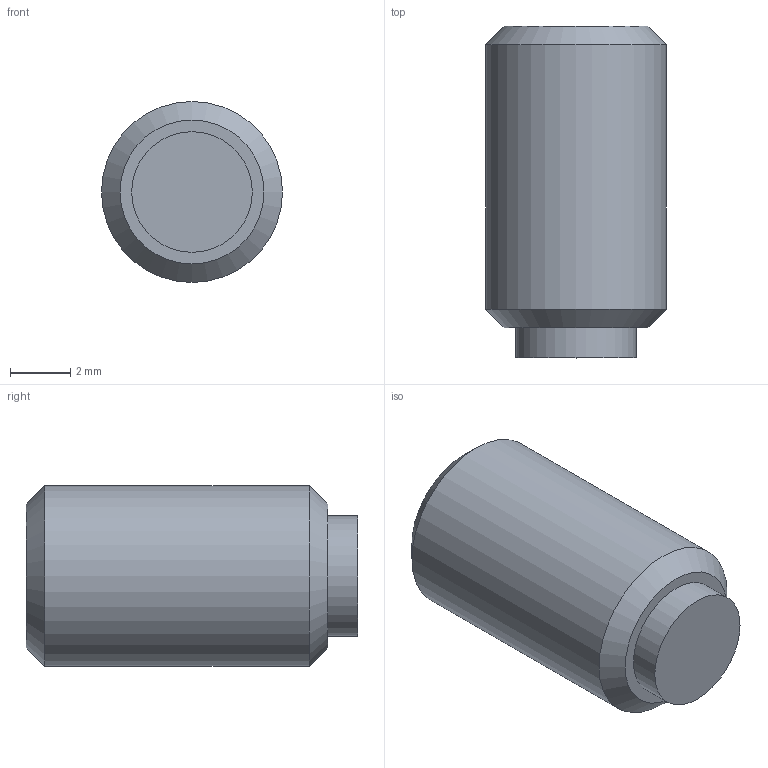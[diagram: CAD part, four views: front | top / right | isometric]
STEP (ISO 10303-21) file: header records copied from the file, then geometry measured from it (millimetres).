
FILE_DESCRIPTION( ( 'STEP AP203' ), '1' );
FILE_NAME( 'C:/Temp/Ganter_Step_05_03_2020/data/3_2/gn913_3/Grub screw GN 913.3-M6-10-MS.stp', '2020-03-13T05:35:48', ( 'License CC BY-ND 4.0' ), ( 'CADENAS' ), ' ', 'PARTsolutions', ' ' );
FILE_SCHEMA( ( 'CONFIG_CONTROL_DESIGN' ) );
Length unit declared in the file: millimetre
Products named in the file (1): _Grub screw GN 913.3-M6-10-MS
Bounding box: 6 x 11 x 6 mm (x, y, z)
Volume: 261.4 mm3; surface area: 279.5 mm2
Topology: 1 solids, 1 shells, 14 faces, 28 edges, 18 vertices
Faces by surface type: plane 10, cylinder 2, cone 2
Full cylindrical faces by diameter (mm): 4 x1, 6 x1
Entity records: 386 total; most frequent: DIRECTION 60, CARTESIAN_POINT 57, ORIENTED_EDGE 48, EDGE_CURVE 24, AXIS2_PLACEMENT_3D 21, EDGE_LOOP 20, VERTEX_POINT 18, LINE 18
